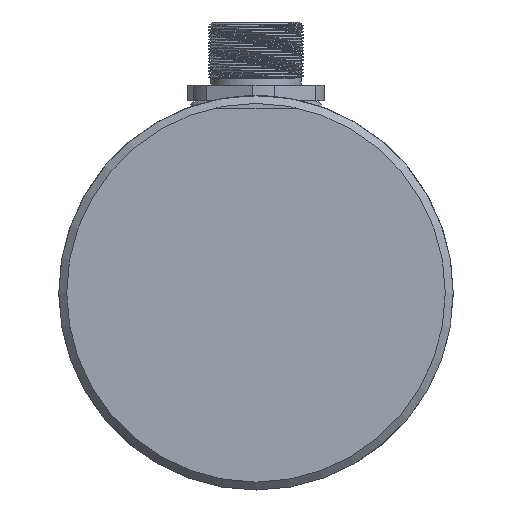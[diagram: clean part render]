
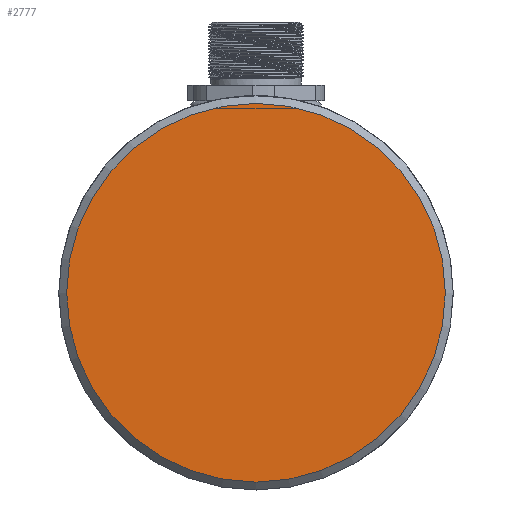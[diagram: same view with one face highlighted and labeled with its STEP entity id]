
A CAD part, left-side view. The second image highlights one B-rep face of the part: STEP entity #2777.
In plain terms, the highlighted planar face has unit normal (-1, 0, 0).
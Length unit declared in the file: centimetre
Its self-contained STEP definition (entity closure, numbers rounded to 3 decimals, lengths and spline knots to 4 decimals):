
#803=CIRCLE('',#2949,2.4);
#890=VERTEX_POINT('',#3628);
#1336=EDGE_CURVE('',#890,#890,#803,.T.);
#1680=ORIENTED_EDGE('',*,*,#1336,.T.);
#2351=EDGE_LOOP('',(#1680));
#2565=FACE_BOUND('',#2351,.T.);
#2777=ADVANCED_FACE('',(#2565),#16228,.T.);
#2949=AXIS2_PLACEMENT_3D('',#3627,#3165,#3166);
#2951=AXIS2_PLACEMENT_3D('',#3631,#3169,$);
#3165=DIRECTION('',(-1.,0.,0.));
#3166=DIRECTION('',(0.,0.,2.4));
#3169=DIRECTION('',(-1.,0.,0.));
#3627=CARTESIAN_POINT('',(0.1,0.,0.));
#3628=CARTESIAN_POINT('',(0.1,0.,2.4));
#3631=CARTESIAN_POINT('',(0.1,0.,0.));
#16228=PLANE('',#2951);
